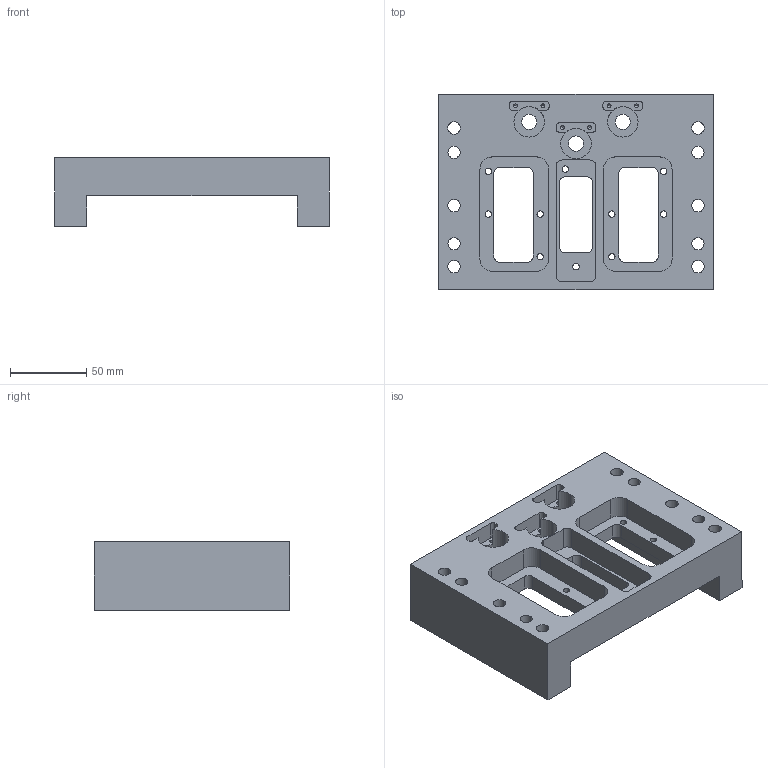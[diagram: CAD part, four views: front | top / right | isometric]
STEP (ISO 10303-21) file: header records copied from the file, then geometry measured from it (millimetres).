
FILE_DESCRIPTION (( 'STEP AP203' ), '1' );
FILE_NAME ('PORTE_MATRICE_POSTE_1.STEP', '2008-04-17T14:38:15', ( ' ' ), ( ' ' ), 'SwSTEP 2.0', 'SolidWorks 2007', '' );
FILE_SCHEMA (( 'CONFIG_CONTROL_DESIGN' ));
Length unit declared in the file: millimetre
Products named in the file (1): PORTE_MATRICE_POSTE_1
Bounding box: 180 x 128 x 45 mm (x, y, z)
Volume: 463976.7 mm3; surface area: 95827.2 mm2
Topology: 1 solids, 1 shells, 170 faces, 474 edges, 306 vertices
Faces by surface type: cylinder 100, plane 58, cone 12
Entity records: 5625 total; most frequent: DIRECTION 1010, CARTESIAN_POINT 939, ORIENTED_EDGE 924, EDGE_CURVE 462, AXIS2_PLACEMENT_3D 377, VERTEX_POINT 306, VECTOR 256, LINE 256
